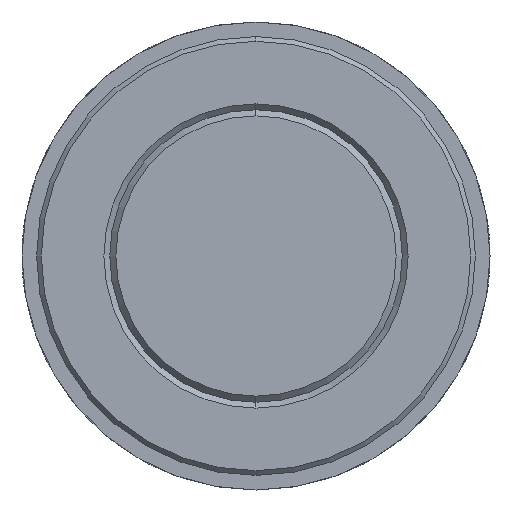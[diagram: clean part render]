
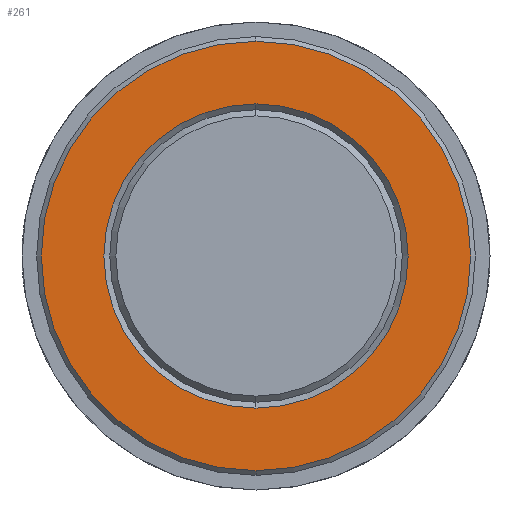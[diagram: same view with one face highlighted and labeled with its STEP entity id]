
A CAD part, left-side view. The second image highlights one B-rep face of the part: STEP entity #261.
In plain terms, the highlighted planar face has unit normal (-1, 0, 0).
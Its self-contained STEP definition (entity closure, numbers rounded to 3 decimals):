
#261=ADVANCED_FACE('',(#659,#660),#661,.T.);
#293=EDGE_CURVE('',#569,#487,#693,.T.);
#487=VERTEX_POINT('',#910);
#501=EDGE_CURVE('',#487,#569,#926,.T.);
#527=EDGE_CURVE('',#593,#561,#953,.T.);
#561=VERTEX_POINT('',#993);
#569=VERTEX_POINT('',#1002);
#587=EDGE_CURVE('',#561,#593,#1024,.T.);
#593=VERTEX_POINT('',#1032);
#659=FACE_BOUND('',#1124,.T.);
#660=FACE_OUTER_BOUND('',#1125,.T.);
#661=PLANE('',#1126);
#693=CIRCLE('',#1169,26.0);
#910=CARTESIAN_POINT('',(25.0,0.,-26.0));
#926=CIRCLE('',#1565,26.0);
#953=CIRCLE('',#1602,36.7);
#993=CARTESIAN_POINT('',(25.0,0.,-36.7));
#1002=CARTESIAN_POINT('',(25.0,0.0,26.0));
#1024=CIRCLE('',#1687,36.7);
#1032=CARTESIAN_POINT('',(25.0,0.0,36.7));
#1124=EDGE_LOOP('',(#1738,#1739));
#1125=EDGE_LOOP('',(#1740,#1741));
#1126=AXIS2_PLACEMENT_3D('',#1742,#1743,#1744);
#1169=AXIS2_PLACEMENT_3D('',#1755,#1756,#1757);
#1565=AXIS2_PLACEMENT_3D('',#2045,#2046,#2047);
#1602=AXIS2_PLACEMENT_3D('',#2067,#2068,#2069);
#1687=AXIS2_PLACEMENT_3D('',#2185,#2186,#2187);
#1738=ORIENTED_EDGE('',*,*,#293,.T.);
#1739=ORIENTED_EDGE('',*,*,#501,.T.);
#1740=ORIENTED_EDGE('',*,*,#527,.F.);
#1741=ORIENTED_EDGE('',*,*,#587,.F.);
#1742=CARTESIAN_POINT('',(25.0,0.0,18.35));
#1743=DIRECTION('',(-1.0,0.0,0.));
#1744=DIRECTION('',(0.,0.0,-1.0));
#1755=CARTESIAN_POINT('',(25.0,0.0,0.0));
#1756=DIRECTION('',(1.0,0.0,0.));
#1757=DIRECTION('',(0.,0.0,1.0));
#2045=CARTESIAN_POINT('',(25.0,0.0,0.0));
#2046=DIRECTION('',(1.0,0.0,0.));
#2047=DIRECTION('',(0.,0.0,1.0));
#2067=CARTESIAN_POINT('',(25.0,0.0,0.0));
#2068=DIRECTION('',(1.0,0.0,-0.0));
#2069=DIRECTION('',(0.0,0.0,1.0));
#2185=CARTESIAN_POINT('',(25.0,0.0,0.0));
#2186=DIRECTION('',(1.0,0.0,-0.0));
#2187=DIRECTION('',(0.0,0.0,1.0));
